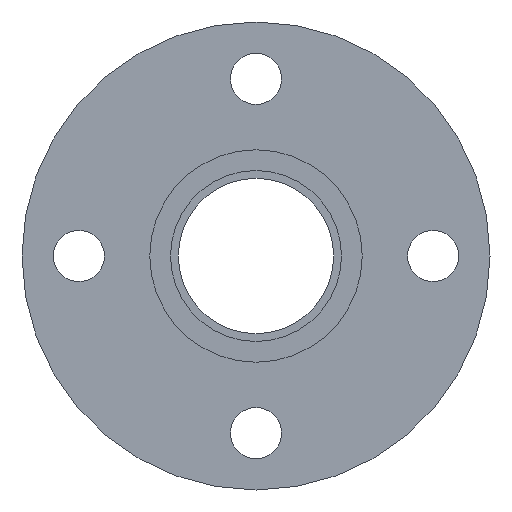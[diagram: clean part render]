
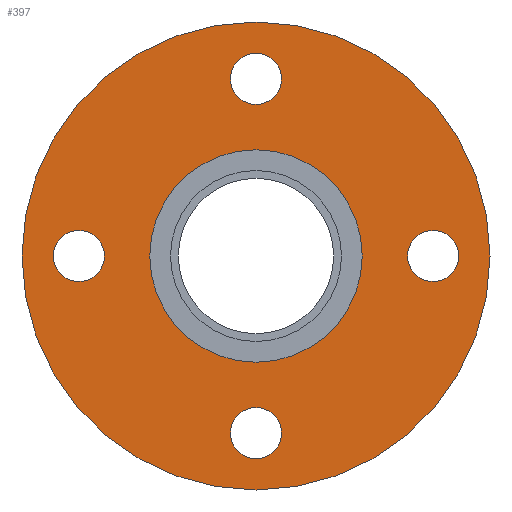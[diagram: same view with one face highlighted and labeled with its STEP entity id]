
A CAD part, left-side view. The second image highlights one B-rep face of the part: STEP entity #397.
In plain terms, the highlighted planar face has unit normal (-1, 0, 0).
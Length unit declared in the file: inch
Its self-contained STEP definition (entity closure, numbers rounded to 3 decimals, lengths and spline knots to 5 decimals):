
#49=FACE_BOUND('',#103,.T.);
#50=FACE_BOUND('',#104,.T.);
#51=FACE_BOUND('',#105,.T.);
#52=FACE_BOUND('',#106,.T.);
#53=FACE_BOUND('',#107,.T.);
#64=PLANE('',#463);
#80=FACE_OUTER_BOUND('',#102,.T.);
#102=EDGE_LOOP('',(#321,#322));
#103=EDGE_LOOP('',(#323));
#104=EDGE_LOOP('',(#324));
#105=EDGE_LOOP('',(#325));
#106=EDGE_LOOP('',(#326));
#107=EDGE_LOOP('',(#327,#328));
#141=CIRCLE('',#424,0.355);
#143=CIRCLE('',#427,0.355);
#145=CIRCLE('',#430,0.355);
#147=CIRCLE('',#433,0.355);
#166=CIRCLE('',#461,1.475);
#167=CIRCLE('',#462,1.475);
#168=CIRCLE('',#464,3.25);
#169=CIRCLE('',#465,3.25);
#177=VERTEX_POINT('',#640);
#179=VERTEX_POINT('',#646);
#181=VERTEX_POINT('',#652);
#183=VERTEX_POINT('',#658);
#202=VERTEX_POINT('',#710);
#203=VERTEX_POINT('',#711);
#204=VERTEX_POINT('',#716);
#205=VERTEX_POINT('',#717);
#214=EDGE_CURVE('',#177,#177,#141,.T.);
#217=EDGE_CURVE('',#179,#179,#143,.T.);
#220=EDGE_CURVE('',#181,#181,#145,.T.);
#223=EDGE_CURVE('',#183,#183,#147,.T.);
#246=EDGE_CURVE('',#202,#203,#166,.T.);
#247=EDGE_CURVE('',#203,#202,#167,.T.);
#249=EDGE_CURVE('',#204,#205,#168,.T.);
#250=EDGE_CURVE('',#205,#204,#169,.T.);
#321=ORIENTED_EDGE('',*,*,#249,.F.);
#322=ORIENTED_EDGE('',*,*,#250,.F.);
#323=ORIENTED_EDGE('',*,*,#214,.T.);
#324=ORIENTED_EDGE('',*,*,#217,.T.);
#325=ORIENTED_EDGE('',*,*,#220,.T.);
#326=ORIENTED_EDGE('',*,*,#223,.T.);
#327=ORIENTED_EDGE('',*,*,#246,.T.);
#328=ORIENTED_EDGE('',*,*,#247,.T.);
#397=ADVANCED_FACE('',(#80,#49,#50,#51,#52,#53),#64,.T.);
#424=AXIS2_PLACEMENT_3D('',#642,#496,#497);
#427=AXIS2_PLACEMENT_3D('',#648,#503,#504);
#430=AXIS2_PLACEMENT_3D('',#654,#510,#511);
#433=AXIS2_PLACEMENT_3D('',#660,#517,#518);
#461=AXIS2_PLACEMENT_3D('',#712,#577,#578);
#462=AXIS2_PLACEMENT_3D('',#713,#579,#580);
#463=AXIS2_PLACEMENT_3D('',#715,#582,#583);
#464=AXIS2_PLACEMENT_3D('',#718,#584,#585);
#465=AXIS2_PLACEMENT_3D('',#719,#586,#587);
#496=DIRECTION('center_axis',(1.,0.,0.));
#497=DIRECTION('ref_axis',(0.,1.,0.));
#503=DIRECTION('center_axis',(1.,0.,0.));
#504=DIRECTION('ref_axis',(0.,0.,-1.));
#510=DIRECTION('center_axis',(1.,0.,0.));
#511=DIRECTION('ref_axis',(0.,-1.,0.));
#517=DIRECTION('center_axis',(1.,0.,0.));
#518=DIRECTION('ref_axis',(0.,0.,1.));
#577=DIRECTION('center_axis',(1.,0.,0.));
#578=DIRECTION('ref_axis',(0.,0.,-1.));
#579=DIRECTION('center_axis',(1.,0.,0.));
#580=DIRECTION('ref_axis',(0.,0.,-1.));
#582=DIRECTION('center_axis',(-1.,0.,0.));
#583=DIRECTION('ref_axis',(0.,0.,1.));
#584=DIRECTION('center_axis',(1.,0.,0.));
#585=DIRECTION('ref_axis',(0.,0.,-1.));
#586=DIRECTION('center_axis',(1.,0.,0.));
#587=DIRECTION('ref_axis',(0.,0.,-1.));
#640=CARTESIAN_POINT('',(-0.71,-0.355,-2.46));
#642=CARTESIAN_POINT('Origin',(-0.71,0.,-2.46));
#646=CARTESIAN_POINT('',(-0.71,-2.46,0.355));
#648=CARTESIAN_POINT('Origin',(-0.71,-2.46,0.));
#652=CARTESIAN_POINT('',(-0.71,0.355,2.46));
#654=CARTESIAN_POINT('Origin',(-0.71,0.,2.46));
#658=CARTESIAN_POINT('',(-0.71,2.46,-0.355));
#660=CARTESIAN_POINT('Origin',(-0.71,2.46,0.));
#710=CARTESIAN_POINT('',(-0.71,1.475,0.));
#711=CARTESIAN_POINT('',(-0.71,-1.475,0.));
#712=CARTESIAN_POINT('Origin',(-0.71,0.,0.));
#713=CARTESIAN_POINT('Origin',(-0.71,0.,0.));
#715=CARTESIAN_POINT('Origin',(-0.71,3.25,0.));
#716=CARTESIAN_POINT('',(-0.71,3.25,0.));
#717=CARTESIAN_POINT('',(-0.71,-3.25,0.));
#718=CARTESIAN_POINT('Origin',(-0.71,0.,0.));
#719=CARTESIAN_POINT('Origin',(-0.71,0.,0.));
